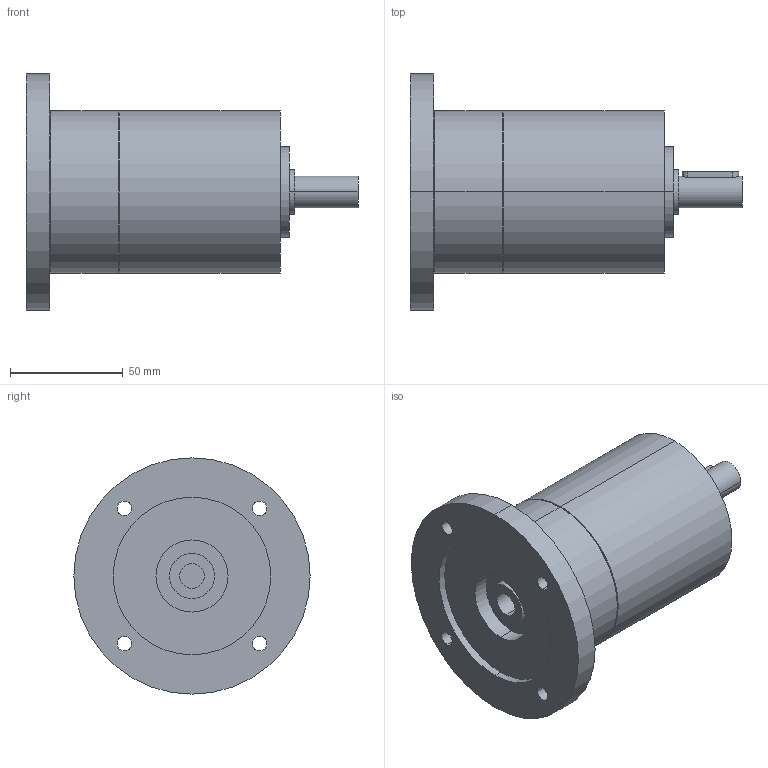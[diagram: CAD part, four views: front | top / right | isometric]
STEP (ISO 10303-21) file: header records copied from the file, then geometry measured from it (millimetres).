
FILE_DESCRIPTION(('CoCreate Modeling STEP Export'),'2;1');
FILE_NAME('GPT75_ig-9-12-16-20-25-28-35-40-50-70-100_14_B14T_11_P05.stp','2014-08-27T13:08:25',(''),(''),'CoCreate Modeling STEP processor for AP214 (Solid Model)','CoCreate Modeling 16.00C 25-Feb-2009 (C) Parametric Technology GmbH','');
FILE_SCHEMA(('AUTOMOTIVE_DESIGN { 1 0 10303 214 1 1 1 1 }'));
Length unit declared in the file: millimetre
Products named in the file (2): GPT75_ig-9-12-16-20-25-28-35-40-50-70-100_14_B14T_11_P05
Assembly tree (1 placements, depth 2):
  GPT75_ig-9-12-16-20-25-28-35-40-50-70-100_14_B14T_11_P05
    GPT75_ig-9-12-16-20-25-28-35-40-50-70-100_14_B14T_11_P05
Bounding box: 147.5 x 105 x 105 mm (x, y, z)
Volume: 495115.9 mm3; surface area: 50513 mm2
Topology: 1 solids, 1 shells, 63 faces, 150 edges, 103 vertices
Faces by surface type: cylinder 40, plane 19, cone 4
Entity records: 1954 total; most frequent: CARTESIAN_POINT 627, ORIENTED_EDGE 300, DIRECTION 222, EDGE_CURVE 150, VERTEX_POINT 103, AXIS2_PLACEMENT_3D 86, EDGE_LOOP 85, FACE_OUTER_BOUND 63
